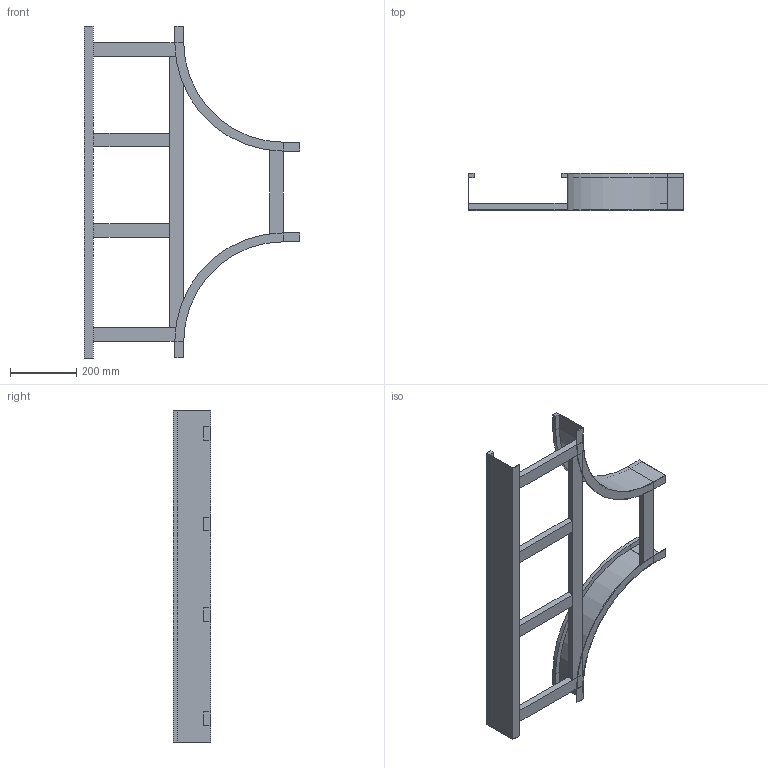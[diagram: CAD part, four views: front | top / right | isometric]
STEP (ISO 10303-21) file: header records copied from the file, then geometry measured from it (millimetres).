
FILE_DESCRIPTION (( 'STEP AP214' ), '1' );
FILE_NAME ('B2_15B3J300.step', '2025-02-21T15:52:00', ( '' ), ( '' ), 'SwSTEP 2.0', 'SolidWorks 2023', '' );
FILE_SCHEMA (( 'AUTOMOTIVE_DESIGN' ));
Length unit declared in the file: millimetre
Products named in the file (6): B2_15B3J300; B2_LONGH.INTERNO 90°_H112.5_R300; B2_TRAVERSINO_LONG._R300+300; B2_LONGH.RETT_H112.5_R300+300; TRAVERSINO_INTERMEDIO_R300+300; TRAVERSINO_300
Assembly tree (9 placements, depth 2):
  B2_15B3J300
    B2_LONGH.INTERNO 90°_H112.5_R300  x2
    B2_LONGH.RETT_H112.5_R300+300
    TRAVERSINO_300  x3
    B2_TRAVERSINO_LONG._R300+300
    TRAVERSINO_INTERMEDIO_R300+300  x2
Bounding box: 650 x 112.5 x 1000 mm (x, y, z)
Volume: 2806133.5 mm3; surface area: 951973.2 mm2
Topology: 9 solids, 9 shells, 98 faces, 208 edges, 128 vertices
Faces by surface type: plane 90, cylinder 8
Entity records: 1639 total; most frequent: DIRECTION 256, CARTESIAN_POINT 254, ORIENTED_EDGE 232, EDGE_CURVE 116, LINE 108, VECTOR 108, AXIS2_PLACEMENT_3D 74, VERTEX_POINT 72
